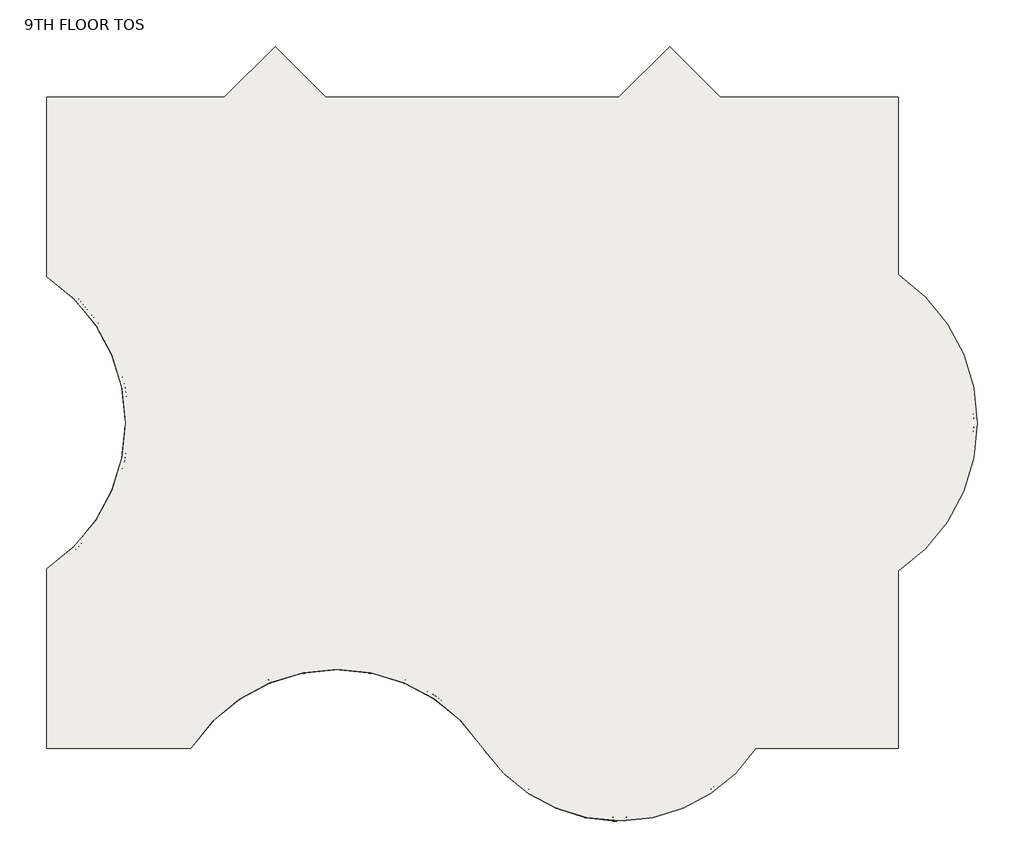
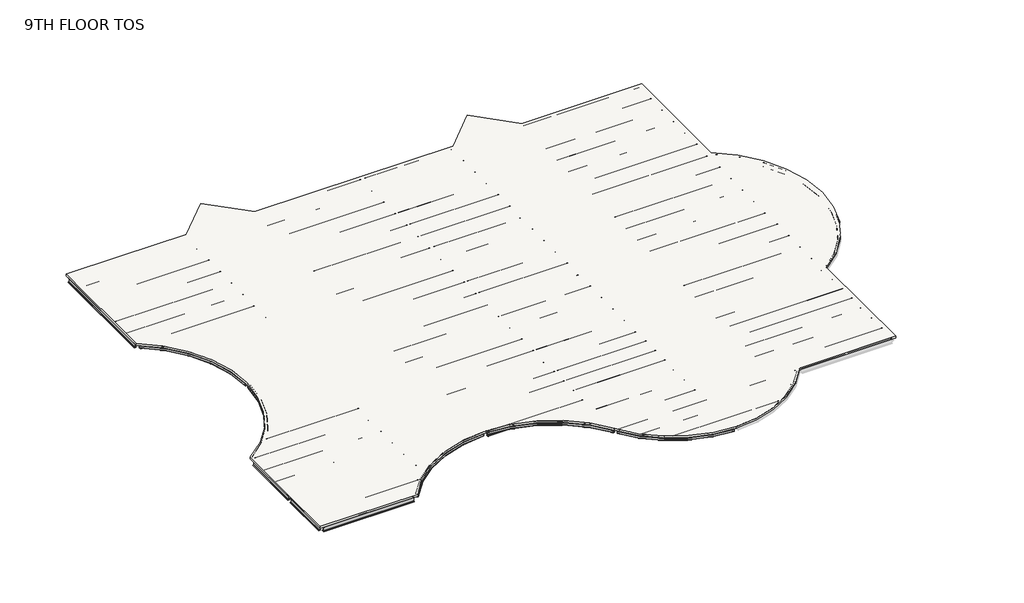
# One storey, part 1 of 2: 86 beams, 1 slab.
"""IFC4 building model written with IfcOpenShell, lengths in millimetres."""

from ifc_helpers import new_model, si_unit, frame, origin, place, context, project, spatial, polyline, circle_curve, transform, mapped, element, save
from ifc_brep_helpers import plane_surface, cylinder_surface, revolved_surface, advanced_brep
from components import m_hss_square_hss203_2x203_2x9_5_914ff4eb, m_hss_square_hss203_2x203_2x9_5_0e3d8e6e, m_hss_square_hss203_2x203_2x9_5_16dc1c03, m_hss_square_hss203_2x203_2x9_5_18346204, m_hss_square_hss203_2x203_2x9_5_d5f1e8c4, ub_universal_beams_ub254x102x28_4e7f3726, ub_universal_beams_ub305x165x40_c4d0385b, ub_universal_beams_ub305x165x40_d3abc31d, ub_universal_beams_ub305x165x40_0c73730f, ub_universal_beams_ub305x165x40_2a963f0c, ub_universal_beams_ub305x165x40_0a5f2f96, ub_universal_beams_ub305x165x40_d1f7c369, ub_universal_beams_ub305x165x40_83d7b7d5, ub_universal_beams_ub305x165x40_729a4ea5, ub_universal_beams_ub305x165x40_71dfa851, ub_universal_beams_ub305x165x40_619b5398, ub_universal_beams_ub305x165x40_c3492db1, ub_universal_beams_ub305x165x40_8f1c350d, ub_universal_beams_ub305x165x40_3afb5f90, ub_universal_beams_ub305x165x40_767d1929, ub_universal_beams_ub305x165x40_5941ca45, ub_universal_beams_ub356x171x51_ef72dcdd, ub_universal_beams_ub356x171x51_7f80702c, ub_universal_beams_ub356x171x51_dfc36663, ub_universal_beams_ub356x171x51_405a853e, ub_universal_beams_ub356x171x51_e47b7055, ub_universal_beams_ub356x171x51_e97f8d2e, ub_universal_beams_ub356x171x51_11d6b780, ub_universal_beams_ub356x171x51_76b2d20b, ub_universal_beams_ub356x171x51_145ecd4b, ub_universal_beams_ub356x171x51_c7dff8d2, ub_universal_beams_ub356x171x51_834c6e34, ub_universal_beams_ub356x171x51_a38b99de, ub_universal_beams_ub356x171x51_d8f4cdde, ub_universal_beams_ub356x171x51_8094f821, ub_universal_beams_ub356x171x51_e661f2e4, ub_universal_beams_ub356x171x51_3ee91673, ub_universal_beams_ub356x171x51_a871b283, ub_universal_beams_ub356x171x51_741bae58

model = new_model("IFC4")

# Units and contexts
model_context = context("Model", 3, world=origin())
ifc_project = project(units=[si_unit("LENGTHUNIT", "METRE", prefix="MILLI")], contexts=[model_context])

# Site, building, storey
site = spatial("IfcSite", under=ifc_project)
building = spatial("IfcBuilding", under=site)
storey = spatial("IfcBuildingStorey", under=building, Name="9TH FLOOR TOS", Elevation=40995.6)

# Beams
placement = place(None, origin())
m_hss_square_hss203_2x203_2x9_5_shape = m_hss_square_hss203_2x203_2x9_5_914ff4eb(model_context)
element("IfcBeam", 1, ObjectType="M_HSS Square : HSS203.2X203.2X9.5", at=placement, inside=storey, context=model_context, shape_type="MappedRepresentation", body=[
    mapped(m_hss_square_hss203_2x203_2x9_5_shape, transform((22710.575, 155.575, 40894.1), x_axis=(-0.552849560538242, 0.8332810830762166, 0.0), y_axis=(-0.8332810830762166, -0.552849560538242, 0.0), z_axis=(0.0, 0.0, 1.0))),
])
m_hss_square_hss203_2x203_2x9_5_2_shape = m_hss_square_hss203_2x203_2x9_5_0e3d8e6e(model_context)
element("IfcBeam", 2, ObjectType="M_HSS Square : HSS203.2X203.2X9.5", at=placement, inside=storey, context=model_context, shape_type="MappedRepresentation", body=[
    mapped(m_hss_square_hss203_2x203_2x9_5_2_shape, transform((155.575, 9299.575, 40894.1), x_axis=(0.8332810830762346, 0.5528495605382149, 0.0), y_axis=(-0.5528495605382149, 0.8332810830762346, 0.0), z_axis=(0.0, 0.0, 1.0))),
])
m_hss_square_hss203_2x203_2x9_5_3_shape = m_hss_square_hss203_2x203_2x9_5_16dc1c03(model_context)
element("IfcBeam", 3, ObjectType="M_HSS Square : HSS203.2X203.2X9.5", at=placement, inside=storey, context=model_context, shape_type="MappedRepresentation", body=[
    mapped(m_hss_square_hss203_2x203_2x9_5_3_shape, transform((155.575, 24539.575, 40894.1), x_axis=(0.8332810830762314, -0.5528495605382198, 0.0), y_axis=(0.5528495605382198, 0.8332810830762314, 0.0), z_axis=(0.0, 0.0, 1.0))),
])
m_hss_square_hss203_2x203_2x9_5_4_shape = m_hss_square_hss203_2x203_2x9_5_18346204(model_context)
element("IfcBeam", 4, ObjectType="M_HSS Square : HSS203.2X203.2X9.5", at=placement, inside=storey, context=model_context, shape_type="MappedRepresentation", body=[
    mapped(m_hss_square_hss203_2x203_2x9_5_4_shape, transform((29734.7266693, -3601.398624, 40894.1), x_axis=(-0.9999968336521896, -0.0025164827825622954, 0.0), y_axis=(0.0025164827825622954, -0.9999968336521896, 0.0), z_axis=(0.0, 0.0, 1.0))),
])
m_hss_square_hss203_2x203_2x9_5_5_shape = m_hss_square_hss203_2x203_2x9_5_d5f1e8c4(model_context)
element("IfcBeam", 5, ObjectType="M_HSS Square : HSS203.2X203.2X9.5", at=placement, inside=storey, context=model_context, shape_type="MappedRepresentation", body=[
    mapped(m_hss_square_hss203_2x203_2x9_5_5_shape, transform((15096.4572854, 4244.5731081, 40894.1), x_axis=(-0.9999997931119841, 0.0006432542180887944, 0.0), y_axis=(-0.0006432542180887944, -0.9999997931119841, 0.0), z_axis=(0.0, 0.0, 1.0))),
])
ub_universal_beams_ub254x102x28_shape = ub_universal_beams_ub254x102x28_4e7f3726(model_context)
element("IfcBeam", 6, ObjectType="UB-Universal Beams : UB254x102x28", at=placement, inside=storey, context=model_context, shape_type="MappedRepresentation", body=[
    mapped(ub_universal_beams_ub254x102x28_shape, transform((9299.575, 3210.915913, 40865.4), x_axis=(0.0, -1.0, 0.0), y_axis=(1.0, 0.0, 0.0), z_axis=(0.0, 0.0, 1.0))),
])
ub_universal_beams_ub305x165x40_shape = ub_universal_beams_ub305x165x40_c4d0385b(model_context)
element("IfcBeam", 7, ObjectType="UB-Universal Beams : UB305x165x40", at=placement, inside=storey, context=model_context, shape_type="MappedRepresentation", body=[
    mapped(ub_universal_beams_ub305x165x40_shape, transform((4727.575, 30635.575, 40843.9), x_axis=(1.0, 0.0, 0.0), y_axis=(0.0, 1.0, 0.0), z_axis=(0.0, 0.0, 1.0))),
])
element("IfcBeam", 8, ObjectType="UB-Universal Beams : UB305x165x40", at=placement, inside=storey, context=model_context, shape_type="MappedRepresentation", body=[
    mapped(ub_universal_beams_ub305x165x40_shape, transform((4727.575, 29111.575, 40843.9), x_axis=(1.0, 0.0, 0.0), y_axis=(0.0, 1.0, 0.0), z_axis=(0.0, 0.0, 1.0))),
])
element("IfcBeam", 9, ObjectType="UB-Universal Beams : UB305x165x40", at=placement, inside=storey, context=model_context, shape_type="MappedRepresentation", body=[
    mapped(ub_universal_beams_ub305x165x40_shape, transform((4727.575, 27587.575, 40843.9), x_axis=(1.0, 0.0, 0.0), y_axis=(0.0, 1.0, 0.0), z_axis=(0.0, 0.0, 1.0))),
])
element("IfcBeam", 10, ObjectType="UB-Universal Beams : UB305x165x40", at=placement, inside=storey, context=model_context, shape_type="MappedRepresentation", body=[
    mapped(ub_universal_beams_ub305x165x40_shape, transform((4727.575, 26063.575, 40843.9), x_axis=(1.0, 0.0, 0.0), y_axis=(0.0, 1.0, 0.0), z_axis=(0.0, 0.0, 1.0))),
])
element("IfcBeam", 11, ObjectType="UB-Universal Beams : UB305x165x40", at=placement, inside=storey, context=model_context, shape_type="MappedRepresentation", body=[
    mapped(ub_universal_beams_ub305x165x40_shape, transform((4727.575, 4727.575, 40843.9), x_axis=(-1.0, 0.0, 0.0), y_axis=(0.0, -1.0, 0.0), z_axis=(0.0, 0.0, 1.0))),
])
element("IfcBeam", 12, ObjectType="UB-Universal Beams : UB305x165x40", at=placement, inside=storey, context=model_context, shape_type="MappedRepresentation", body=[
    mapped(ub_universal_beams_ub305x165x40_shape, transform((4727.575, 6251.575, 40843.9), x_axis=(-1.0, 0.0, 0.0), y_axis=(0.0, -1.0, 0.0), z_axis=(0.0, 0.0, 1.0))),
])
element("IfcBeam", 13, ObjectType="UB-Universal Beams : UB305x165x40", at=placement, inside=storey, context=model_context, shape_type="MappedRepresentation", body=[
    mapped(ub_universal_beams_ub305x165x40_shape, transform((4727.575, 7775.575, 40843.9), x_axis=(-1.0, 0.0, 0.0), y_axis=(0.0, -1.0, 0.0), z_axis=(0.0, 0.0, 1.0))),
])
ub_universal_beams_ub305x165x40_2_shape = ub_universal_beams_ub305x165x40_d3abc31d(model_context)
element("IfcBeam", 14, ObjectType="UB-Universal Beams : UB305x165x40", at=placement, inside=storey, context=model_context, shape_type="MappedRepresentation", body=[
    mapped(ub_universal_beams_ub305x165x40_2_shape, transform((11885.575, 28938.325, 40843.9), x_axis=(1.0, 0.0, 0.0), y_axis=(0.0, 1.0, 0.0), z_axis=(0.0, 0.0, 1.0))),
])
element("IfcBeam", 15, ObjectType="UB-Universal Beams : UB305x165x40", at=placement, inside=storey, context=model_context, shape_type="MappedRepresentation", body=[
    mapped(ub_universal_beams_ub305x165x40_2_shape, transform((11885.575, 27472.075, 40843.9), x_axis=(1.0, 0.0, 0.0), y_axis=(0.0, 1.0, 0.0), z_axis=(0.0, 0.0, 1.0))),
])
element("IfcBeam", 16, ObjectType="UB-Universal Beams : UB305x165x40", at=placement, inside=storey, context=model_context, shape_type="MappedRepresentation", body=[
    mapped(ub_universal_beams_ub305x165x40_2_shape, transform((11885.575, 26005.825, 40843.9), x_axis=(1.0, 0.0, 0.0), y_axis=(0.0, 1.0, 0.0), z_axis=(0.0, 0.0, 1.0))),
])
element("IfcBeam", 17, ObjectType="UB-Universal Beams : UB305x165x40", at=placement, inside=storey, context=model_context, shape_type="MappedRepresentation", body=[
    mapped(ub_universal_beams_ub305x165x40_2_shape, transform((11885.575, 23015.575, 40843.9), x_axis=(1.0, 0.0, 0.0), y_axis=(0.0, 1.0, 0.0), z_axis=(0.0, 0.0, 1.0))),
])
element("IfcBeam", 18, ObjectType="UB-Universal Beams : UB305x165x40", at=placement, inside=storey, context=model_context, shape_type="MappedRepresentation", body=[
    mapped(ub_universal_beams_ub305x165x40_2_shape, transform((11885.575, 21491.575, 40843.9), x_axis=(1.0, 0.0, 0.0), y_axis=(0.0, 1.0, 0.0), z_axis=(0.0, 0.0, 1.0))),
])
element("IfcBeam", 19, ObjectType="UB-Universal Beams : UB305x165x40", at=placement, inside=storey, context=model_context, shape_type="MappedRepresentation", body=[
    mapped(ub_universal_beams_ub305x165x40_2_shape, transform((11885.575, 19967.575, 40843.9), x_axis=(1.0, 0.0, 0.0), y_axis=(0.0, 1.0, 0.0), z_axis=(0.0, 0.0, 1.0))),
])
element("IfcBeam", 20, ObjectType="UB-Universal Beams : UB305x165x40", at=placement, inside=storey, context=model_context, shape_type="MappedRepresentation", body=[
    mapped(ub_universal_beams_ub305x165x40_2_shape, transform((11885.575, 18443.575, 40843.9), x_axis=(1.0, 0.0, 0.0), y_axis=(0.0, 1.0, 0.0), z_axis=(0.0, 0.0, 1.0))),
])
element("IfcBeam", 21, ObjectType="UB-Universal Beams : UB305x165x40", at=placement, inside=storey, context=model_context, shape_type="MappedRepresentation", body=[
    mapped(ub_universal_beams_ub305x165x40_2_shape, transform((11885.575, 15395.575, 40843.9), x_axis=(1.0, 0.0, 0.0), y_axis=(0.0, 1.0, 0.0), z_axis=(0.0, 0.0, 1.0))),
])
element("IfcBeam", 22, ObjectType="UB-Universal Beams : UB305x165x40", at=placement, inside=storey, context=model_context, shape_type="MappedRepresentation", body=[
    mapped(ub_universal_beams_ub305x165x40_2_shape, transform((11885.575, 13871.575, 40843.9), x_axis=(1.0, 0.0, 0.0), y_axis=(0.0, 1.0, 0.0), z_axis=(0.0, 0.0, 1.0))),
])
element("IfcBeam", 23, ObjectType="UB-Universal Beams : UB305x165x40", at=placement, inside=storey, context=model_context, shape_type="MappedRepresentation", body=[
    mapped(ub_universal_beams_ub305x165x40_2_shape, transform((11885.575, 12347.575, 40843.9), x_axis=(1.0, 0.0, 0.0), y_axis=(0.0, 1.0, 0.0), z_axis=(0.0, 0.0, 1.0))),
])
element("IfcBeam", 24, ObjectType="UB-Universal Beams : UB305x165x40", at=placement, inside=storey, context=model_context, shape_type="MappedRepresentation", body=[
    mapped(ub_universal_beams_ub305x165x40_2_shape, transform((11885.575, 10823.575, 40843.9), x_axis=(1.0, 0.0, 0.0), y_axis=(0.0, 1.0, 0.0), z_axis=(0.0, 0.0, 1.0))),
])
element("IfcBeam", 25, ObjectType="UB-Universal Beams : UB305x165x40", at=placement, inside=storey, context=model_context, shape_type="MappedRepresentation", body=[
    mapped(ub_universal_beams_ub305x165x40_2_shape, transform((11885.575, 5026.1840956, 40843.9), x_axis=(-1.0, 0.0, 0.0), y_axis=(0.0, -1.0, 0.0), z_axis=(0.0, 0.0, 1.0))),
])
element("IfcBeam", 26, ObjectType="UB-Universal Beams : UB305x165x40", at=placement, inside=storey, context=model_context, shape_type="MappedRepresentation", body=[
    mapped(ub_universal_beams_ub305x165x40_2_shape, transform((11885.575, 6450.6477304, 40843.9), x_axis=(-1.0, 0.0, 0.0), y_axis=(0.0, -1.0, 0.0), z_axis=(0.0, 0.0, 1.0))),
])
element("IfcBeam", 27, ObjectType="UB-Universal Beams : UB305x165x40", at=placement, inside=storey, context=model_context, shape_type="MappedRepresentation", body=[
    mapped(ub_universal_beams_ub305x165x40_2_shape, transform((11885.575, 7875.1113652, 40843.9), x_axis=(-1.0, 0.0, 0.0), y_axis=(0.0, -1.0, 0.0), z_axis=(0.0, 0.0, 1.0))),
])
ub_universal_beams_ub305x165x40_3_shape = ub_universal_beams_ub305x165x40_0c73730f(model_context)
element("IfcBeam", 28, ObjectType="UB-Universal Beams : UB305x165x40", at=placement, inside=storey, context=model_context, shape_type="MappedRepresentation", body=[
    mapped(ub_universal_beams_ub305x165x40_3_shape, transform((18591.075, 5492.5943214, 40843.9), x_axis=(-1.0, 0.0, 0.0), y_axis=(0.0, -1.0, 0.0), z_axis=(0.0, 0.0, 1.0))),
])
element("IfcBeam", 29, ObjectType="UB-Universal Beams : UB305x165x40", at=placement, inside=storey, context=model_context, shape_type="MappedRepresentation", body=[
    mapped(ub_universal_beams_ub305x165x40_3_shape, transform((18591.075, 6761.5878809, 40843.9), x_axis=(-1.0, 0.0, 0.0), y_axis=(0.0, -1.0, 0.0), z_axis=(0.0, 0.0, 1.0))),
])
element("IfcBeam", 30, ObjectType="UB-Universal Beams : UB305x165x40", at=placement, inside=storey, context=model_context, shape_type="MappedRepresentation", body=[
    mapped(ub_universal_beams_ub305x165x40_3_shape, transform((18591.075, 8030.5814405, 40843.9), x_axis=(-1.0, 0.0, 0.0), y_axis=(0.0, -1.0, 0.0), z_axis=(0.0, 0.0, 1.0))),
])
element("IfcBeam", 31, ObjectType="UB-Universal Beams : UB305x165x40", at=placement, inside=storey, context=model_context, shape_type="MappedRepresentation", body=[
    mapped(ub_universal_beams_ub305x165x40_3_shape, transform((18591.075, 15395.575, 40843.9), x_axis=(1.0, 0.0, 0.0), y_axis=(0.0, 1.0, 0.0), z_axis=(0.0, 0.0, 1.0))),
])
element("IfcBeam", 32, ObjectType="UB-Universal Beams : UB305x165x40", at=placement, inside=storey, context=model_context, shape_type="MappedRepresentation", body=[
    mapped(ub_universal_beams_ub305x165x40_3_shape, transform((18591.075, 13871.575, 40843.9), x_axis=(1.0, 0.0, 0.0), y_axis=(0.0, 1.0, 0.0), z_axis=(0.0, 0.0, 1.0))),
])
element("IfcBeam", 33, ObjectType="UB-Universal Beams : UB305x165x40", at=placement, inside=storey, context=model_context, shape_type="MappedRepresentation", body=[
    mapped(ub_universal_beams_ub305x165x40_3_shape, transform((18591.075, 12347.575, 40843.9), x_axis=(1.0, 0.0, 0.0), y_axis=(0.0, 1.0, 0.0), z_axis=(0.0, 0.0, 1.0))),
])
element("IfcBeam", 34, ObjectType="UB-Universal Beams : UB305x165x40", at=placement, inside=storey, context=model_context, shape_type="MappedRepresentation", body=[
    mapped(ub_universal_beams_ub305x165x40_3_shape, transform((18591.075, 10823.575, 40843.9), x_axis=(1.0, 0.0, 0.0), y_axis=(0.0, 1.0, 0.0), z_axis=(0.0, 0.0, 1.0))),
])
ub_universal_beams_ub305x165x40_4_shape = ub_universal_beams_ub305x165x40_2a963f0c(model_context)
element("IfcBeam", 35, ObjectType="UB-Universal Beams : UB305x165x40", at=placement, inside=storey, context=model_context, shape_type="MappedRepresentation", body=[
    mapped(ub_universal_beams_ub305x165x40_4_shape, transform((26211.075, 15395.575, 40843.9), x_axis=(1.0, 0.0, 0.0), y_axis=(0.0, 1.0, 0.0), z_axis=(0.0, 0.0, 1.0))),
])
element("IfcBeam", 36, ObjectType="UB-Universal Beams : UB305x165x40", at=placement, inside=storey, context=model_context, shape_type="MappedRepresentation", body=[
    mapped(ub_universal_beams_ub305x165x40_4_shape, transform((26211.075, 13871.575, 40843.9), x_axis=(1.0, 0.0, 0.0), y_axis=(0.0, 1.0, 0.0), z_axis=(0.0, 0.0, 1.0))),
])
element("IfcBeam", 37, ObjectType="UB-Universal Beams : UB305x165x40", at=placement, inside=storey, context=model_context, shape_type="MappedRepresentation", body=[
    mapped(ub_universal_beams_ub305x165x40_4_shape, transform((26211.075, 12347.575, 40843.9), x_axis=(1.0, 0.0, 0.0), y_axis=(0.0, 1.0, 0.0), z_axis=(0.0, 0.0, 1.0))),
])
element("IfcBeam", 38, ObjectType="UB-Universal Beams : UB305x165x40", at=placement, inside=storey, context=model_context, shape_type="MappedRepresentation", body=[
    mapped(ub_universal_beams_ub305x165x40_4_shape, transform((26211.075, 10823.575, 40843.9), x_axis=(1.0, 0.0, 0.0), y_axis=(0.0, 1.0, 0.0), z_axis=(0.0, 0.0, 1.0))),
])
element("IfcBeam", 39, ObjectType="UB-Universal Beams : UB305x165x40", at=placement, inside=storey, context=model_context, shape_type="MappedRepresentation", body=[
    mapped(ub_universal_beams_ub305x165x40_4_shape, transform((26211.075, 5508.325, 40843.9), x_axis=(-1.0, 0.0, 0.0), y_axis=(0.0, -1.0, 0.0), z_axis=(0.0, 0.0, 1.0))),
])
element("IfcBeam", 40, ObjectType="UB-Universal Beams : UB305x165x40", at=placement, inside=storey, context=model_context, shape_type="MappedRepresentation", body=[
    mapped(ub_universal_beams_ub305x165x40_4_shape, transform((26211.075, 6772.075, 40843.9), x_axis=(-1.0, 0.0, 0.0), y_axis=(0.0, -1.0, 0.0), z_axis=(0.0, 0.0, 1.0))),
])
element("IfcBeam", 41, ObjectType="UB-Universal Beams : UB305x165x40", at=placement, inside=storey, context=model_context, shape_type="MappedRepresentation", body=[
    mapped(ub_universal_beams_ub305x165x40_4_shape, transform((26211.075, 8035.825, 40843.9), x_axis=(-1.0, 0.0, 0.0), y_axis=(0.0, -1.0, 0.0), z_axis=(0.0, 0.0, 1.0))),
])
element("IfcBeam", 42, ObjectType="UB-Universal Beams : UB305x165x40", at=placement, inside=storey, context=model_context, shape_type="MappedRepresentation", body=[
    mapped(ub_universal_beams_ub305x165x40_4_shape, transform((26211.075, 1518.575, 40843.9), x_axis=(-1.0, 0.0, 0.0), y_axis=(0.0, -1.0, 0.0), z_axis=(0.0, 0.0, 1.0))),
])
element("IfcBeam", 43, ObjectType="UB-Universal Beams : UB305x165x40", at=placement, inside=storey, context=model_context, shape_type="MappedRepresentation", body=[
    mapped(ub_universal_beams_ub305x165x40_4_shape, transform((26211.075, 2881.575, 40843.9), x_axis=(-1.0, 0.0, 0.0), y_axis=(0.0, -1.0, 0.0), z_axis=(0.0, 0.0, 1.0))),
])
ub_universal_beams_ub305x165x40_5_shape = ub_universal_beams_ub305x165x40_0a5f2f96(model_context)
element("IfcBeam", 44, ObjectType="UB-Universal Beams : UB305x165x40", at=placement, inside=storey, context=model_context, shape_type="MappedRepresentation", body=[
    mapped(ub_universal_beams_ub305x165x40_5_shape, transform((29713.575, -2349.0918253, 40843.9), x_axis=(-1.0, 0.0, 0.0), y_axis=(0.0, -1.0, 0.0), z_axis=(0.0, 0.0, 1.0))),
])
ub_universal_beams_ub305x165x40_6_shape = ub_universal_beams_ub305x165x40_d1f7c369(model_context)
element("IfcBeam", 45, ObjectType="UB-Universal Beams : UB305x165x40", at=placement, inside=storey, context=model_context, shape_type="MappedRepresentation", body=[
    mapped(ub_universal_beams_ub305x165x40_6_shape, transform((29713.575, -1096.7584126, 40843.9), x_axis=(-1.0, 0.0, 0.0), y_axis=(0.0, -1.0, 0.0), z_axis=(0.0, 0.0, 1.0))),
])
ub_universal_beams_ub305x165x40_7_shape = ub_universal_beams_ub305x165x40_83d7b7d5(model_context)
element("IfcBeam", 46, ObjectType="UB-Universal Beams : UB305x165x40", at=placement, inside=storey, context=model_context, shape_type="MappedRepresentation", body=[
    mapped(ub_universal_beams_ub305x165x40_7_shape, transform((22157.3041106, 1518.575, 40843.9), x_axis=(-1.0, 0.0, 0.0), y_axis=(0.0, -1.0, 0.0), z_axis=(0.0, 0.0, 1.0))),
])
ub_universal_beams_ub305x165x40_8_shape = ub_universal_beams_ub305x165x40_729a4ea5(model_context)
element("IfcBeam", 47, ObjectType="UB-Universal Beams : UB305x165x40", at=placement, inside=storey, context=model_context, shape_type="MappedRepresentation", body=[
    mapped(ub_universal_beams_ub305x165x40_8_shape, transform((21302.1545844, 2881.575, 40843.9), x_axis=(-1.0, 0.0, 0.0), y_axis=(0.0, -1.0, 0.0), z_axis=(0.0, 0.0, 1.0))),
])
ub_universal_beams_ub305x165x40_9_shape = ub_universal_beams_ub305x165x40_71dfa851(model_context)
element("IfcBeam", 48, ObjectType="UB-Universal Beams : UB305x165x40", at=placement, inside=storey, context=model_context, shape_type="MappedRepresentation", body=[
    mapped(ub_universal_beams_ub305x165x40_9_shape, transform((10511.0323166, 3601.7204608, 40843.9), x_axis=(-1.0, 0.0, 0.0), y_axis=(0.0, -1.0, 0.0), z_axis=(0.0, 0.0, 1.0))),
])
ub_universal_beams_ub305x165x40_10_shape = ub_universal_beams_ub305x165x40_619b5398(model_context)
element("IfcBeam", 49, ObjectType="UB-Universal Beams : UB305x165x40", at=placement, inside=storey, context=model_context, shape_type="MappedRepresentation", body=[
    mapped(ub_universal_beams_ub305x165x40_10_shape, transform((4447.6838282, 1679.575, 40843.9), x_axis=(-1.0, 0.0, 0.0), y_axis=(0.0, -1.0, 0.0), z_axis=(0.0, 0.0, 1.0))),
])
ub_universal_beams_ub305x165x40_11_shape = ub_universal_beams_ub305x165x40_c3492db1(model_context)
element("IfcBeam", 50, ObjectType="UB-Universal Beams : UB305x165x40", at=placement, inside=storey, context=model_context, shape_type="MappedRepresentation", body=[
    mapped(ub_universal_beams_ub305x165x40_11_shape, transform((4727.575, 3203.575, 40843.9), x_axis=(-1.0, 0.0, 0.0), y_axis=(0.0, -1.0, 0.0), z_axis=(0.0, 0.0, 1.0))),
])
ub_universal_beams_ub305x165x40_12_shape = ub_universal_beams_ub305x165x40_8f1c350d(model_context)
element("IfcBeam", 51, ObjectType="UB-Universal Beams : UB305x165x40", at=placement, inside=storey, context=model_context, shape_type="MappedRepresentation", body=[
    mapped(ub_universal_beams_ub305x165x40_12_shape, transform((6708.1318611, 15395.575, 40843.9), x_axis=(1.0, 0.0, 0.0), y_axis=(0.0, 1.0, 0.0), z_axis=(0.0, 0.0, 1.0))),
])
element("IfcBeam", 52, ObjectType="UB-Universal Beams : UB305x165x40", at=placement, inside=storey, context=model_context, shape_type="MappedRepresentation", body=[
    mapped(ub_universal_beams_ub305x165x40_12_shape, transform((6708.1318611, 18443.575, 40843.9), x_axis=(1.0, 0.0, 0.0), y_axis=(0.0, 1.0, 0.0), z_axis=(0.0, 0.0, 1.0))),
])
ub_universal_beams_ub305x165x40_13_shape = ub_universal_beams_ub305x165x40_3afb5f90(model_context)
element("IfcBeam", 53, ObjectType="UB-Universal Beams : UB305x165x40", at=placement, inside=storey, context=model_context, shape_type="MappedRepresentation", body=[
    mapped(ub_universal_beams_ub305x165x40_13_shape, transform((6510.6153272, 13871.575, 40843.9), x_axis=(1.0, 0.0, 0.0), y_axis=(0.0, 1.0, 0.0), z_axis=(0.0, 0.0, 1.0))),
])
element("IfcBeam", 54, ObjectType="UB-Universal Beams : UB305x165x40", at=placement, inside=storey, context=model_context, shape_type="MappedRepresentation", body=[
    mapped(ub_universal_beams_ub305x165x40_13_shape, transform((6510.6153272, 19967.575, 40843.9), x_axis=(1.0, 0.0, 0.0), y_axis=(0.0, 1.0, 0.0), z_axis=(0.0, 0.0, 1.0))),
])
ub_universal_beams_ub305x165x40_14_shape = ub_universal_beams_ub305x165x40_767d1929(model_context)
element("IfcBeam", 55, ObjectType="UB-Universal Beams : UB305x165x40", at=placement, inside=storey, context=model_context, shape_type="MappedRepresentation", body=[
    mapped(ub_universal_beams_ub305x165x40_14_shape, transform((6159.5874928, 12347.575, 40843.9), x_axis=(1.0, 0.0, 0.0), y_axis=(0.0, 1.0, 0.0), z_axis=(0.0, 0.0, 1.0))),
])
element("IfcBeam", 56, ObjectType="UB-Universal Beams : UB305x165x40", at=placement, inside=storey, context=model_context, shape_type="MappedRepresentation", body=[
    mapped(ub_universal_beams_ub305x165x40_14_shape, transform((6159.5874928, 21491.575, 40843.9), x_axis=(1.0, 0.0, 0.0), y_axis=(0.0, 1.0, 0.0), z_axis=(0.0, 0.0, 1.0))),
])
ub_universal_beams_ub305x165x40_15_shape = ub_universal_beams_ub305x165x40_5941ca45(model_context)
element("IfcBeam", 57, ObjectType="UB-Universal Beams : UB305x165x40", at=placement, inside=storey, context=model_context, shape_type="MappedRepresentation", body=[
    mapped(ub_universal_beams_ub305x165x40_15_shape, transform((5607.9405309, 10823.575, 40843.9), x_axis=(1.0, 0.0, 0.0), y_axis=(0.0, 1.0, 0.0), z_axis=(0.0, 0.0, 1.0))),
])
element("IfcBeam", 58, ObjectType="UB-Universal Beams : UB305x165x40", at=placement, inside=storey, context=model_context, shape_type="MappedRepresentation", body=[
    mapped(ub_universal_beams_ub305x165x40_15_shape, transform((5607.9405309, 23015.575, 40843.9), x_axis=(1.0, 0.0, 0.0), y_axis=(0.0, 1.0, 0.0), z_axis=(0.0, 0.0, 1.0))),
])
ub_universal_beams_ub356x171x51_shape = ub_universal_beams_ub356x171x51_ef72dcdd(model_context)
element("IfcBeam", 59, ObjectType="UB-Universal Beams : UB356x171x51", at=placement, inside=storey, context=model_context, shape_type="MappedRepresentation", body=[
    mapped(ub_universal_beams_ub356x171x51_shape, transform((9299.575, 6772.075, 40818.1), x_axis=(0.0, -1.0, 0.0), y_axis=(1.0, 0.0, 0.0), z_axis=(0.0, 0.0, 1.0))),
])
element("IfcBeam", 60, ObjectType="UB-Universal Beams : UB356x171x51", at=placement, inside=storey, context=model_context, shape_type="MappedRepresentation", body=[
    mapped(ub_universal_beams_ub356x171x51_shape, transform((29711.575, 6772.075, 40818.1), x_axis=(0.0, 1.0, 0.0), y_axis=(-1.0, 0.0, 0.0), z_axis=(0.0, 0.0, 1.0))),
])
element("IfcBeam", 61, ObjectType="UB-Universal Beams : UB356x171x51", at=placement, inside=storey, context=model_context, shape_type="MappedRepresentation", body=[
    mapped(ub_universal_beams_ub356x171x51_shape, transform((22710.575, 6772.075, 40818.1), x_axis=(0.0, -1.0, 0.0), y_axis=(1.0, 0.0, 0.0), z_axis=(0.0, 0.0, 1.0))),
])
ub_universal_beams_ub356x171x51_2_shape = ub_universal_beams_ub356x171x51_7f80702c(model_context)
element("IfcBeam", 62, ObjectType="UB-Universal Beams : UB356x171x51", at=placement, inside=storey, context=model_context, shape_type="MappedRepresentation", body=[
    mapped(ub_universal_beams_ub356x171x51_2_shape, transform((3813.075, 155.575, 40818.1), x_axis=(-1.0, 0.0, 0.0), y_axis=(0.0, -1.0, 0.0), z_axis=(0.0, 0.0, 1.0))),
])
ub_universal_beams_ub356x171x51_3_shape = ub_universal_beams_ub356x171x51_dfc36663(model_context)
element("IfcBeam", 63, ObjectType="UB-Universal Beams : UB356x171x51", at=placement, inside=storey, context=model_context, shape_type="MappedRepresentation", body=[
    mapped(ub_universal_beams_ub356x171x51_3_shape, transform((155.575, 2200.075, 40818.1), x_axis=(0.0, 1.0, 0.0), y_axis=(-1.0, 0.0, 0.0), z_axis=(0.0, 0.0, 1.0))),
])
ub_universal_beams_ub356x171x51_4_shape = ub_universal_beams_ub356x171x51_405a853e(model_context)
element("IfcBeam", 64, ObjectType="UB-Universal Beams : UB356x171x51", at=placement, inside=storey, context=model_context, shape_type="MappedRepresentation", body=[
    mapped(ub_universal_beams_ub356x171x51_4_shape, transform((155.575, 6772.075, 40818.1), x_axis=(0.0, 1.0, 0.0), y_axis=(-1.0, 0.0, 0.0), z_axis=(0.0, 0.0, 1.0))),
])
ub_universal_beams_ub356x171x51_5_shape = ub_universal_beams_ub356x171x51_e47b7055(model_context)
element("IfcBeam", 65, ObjectType="UB-Universal Beams : UB356x171x51", at=placement, inside=storey, context=model_context, shape_type="MappedRepresentation", body=[
    mapped(ub_universal_beams_ub356x171x51_5_shape, transform((155.575, 29111.575, 40818.1), x_axis=(0.0, 1.0, 0.0), y_axis=(-1.0, 0.0, 0.0), z_axis=(0.0, 0.0, 1.0))),
])
ub_universal_beams_ub356x171x51_6_shape = ub_universal_beams_ub356x171x51_e97f8d2e(model_context)
element("IfcBeam", 66, ObjectType="UB-Universal Beams : UB356x171x51", at=placement, inside=storey, context=model_context, shape_type="MappedRepresentation", body=[
    mapped(ub_universal_beams_ub356x171x51_6_shape, transform((4727.575, 24539.575, 40818.1), x_axis=(1.0, 0.0, 0.0), y_axis=(0.0, 1.0, 0.0), z_axis=(0.0, 0.0, 1.0))),
])
ub_universal_beams_ub356x171x51_7_shape = ub_universal_beams_ub356x171x51_11d6b780(model_context)
element("IfcBeam", 67, ObjectType="UB-Universal Beams : UB356x171x51", at=placement, inside=storey, context=model_context, shape_type="MappedRepresentation", body=[
    mapped(ub_universal_beams_ub356x171x51_7_shape, transform((11885.575, 24539.575, 40818.1), x_axis=(1.0, 0.0, 0.0), y_axis=(0.0, 1.0, 0.0), z_axis=(0.0, 0.0, 1.0))),
])
element("IfcBeam", 68, ObjectType="UB-Universal Beams : UB356x171x51", at=placement, inside=storey, context=model_context, shape_type="MappedRepresentation", body=[
    mapped(ub_universal_beams_ub356x171x51_7_shape, transform((11885.575, 9299.575, 40818.1), x_axis=(-1.0, 0.0, 0.0), y_axis=(0.0, -1.0, 0.0), z_axis=(0.0, 0.0, 1.0))),
])
element("IfcBeam", 69, ObjectType="UB-Universal Beams : UB356x171x51", at=placement, inside=storey, context=model_context, shape_type="MappedRepresentation", body=[
    mapped(ub_universal_beams_ub356x171x51_7_shape, transform((11885.575, 16919.575, 40818.1), x_axis=(1.0, 0.0, 0.0), y_axis=(0.0, 1.0, 0.0), z_axis=(0.0, 0.0, 1.0))),
])
ub_universal_beams_ub356x171x51_8_shape = ub_universal_beams_ub356x171x51_76b2d20b(model_context)
element("IfcBeam", 70, ObjectType="UB-Universal Beams : UB356x171x51", at=placement, inside=storey, context=model_context, shape_type="MappedRepresentation", body=[
    mapped(ub_universal_beams_ub356x171x51_8_shape, transform((18591.075, 9299.575, 40818.1), x_axis=(-1.0, 0.0, 0.0), y_axis=(0.0, -1.0, 0.0), z_axis=(0.0, 0.0, 1.0))),
])
ub_universal_beams_ub356x171x51_9_shape = ub_universal_beams_ub356x171x51_145ecd4b(model_context)
element("IfcBeam", 71, ObjectType="UB-Universal Beams : UB356x171x51", at=placement, inside=storey, context=model_context, shape_type="MappedRepresentation", body=[
    mapped(ub_universal_beams_ub356x171x51_9_shape, transform((26211.075, 9299.575, 40818.1), x_axis=(-1.0, 0.0, 0.0), y_axis=(0.0, -1.0, 0.0), z_axis=(0.0, 0.0, 1.0))),
])
element("IfcBeam", 72, ObjectType="UB-Universal Beams : UB356x171x51", at=placement, inside=storey, context=model_context, shape_type="MappedRepresentation", body=[
    mapped(ub_universal_beams_ub356x171x51_9_shape, transform((26211.075, 4244.575, 40818.1), x_axis=(-1.0, 0.0, 0.0), y_axis=(0.0, -1.0, 0.0), z_axis=(0.0, 0.0, 1.0))),
])
ub_universal_beams_ub356x171x51_10_shape = ub_universal_beams_ub356x171x51_c7dff8d2(model_context)
element("IfcBeam", 73, ObjectType="UB-Universal Beams : UB356x171x51", at=placement, inside=storey, context=model_context, shape_type="MappedRepresentation", body=[
    mapped(ub_universal_beams_ub356x171x51_10_shape, transform((4727.575, 9299.575, 40818.1), x_axis=(-1.0, 0.0, 0.0), y_axis=(0.0, -1.0, 0.0), z_axis=(0.0, 0.0, 1.0))),
])
ub_universal_beams_ub356x171x51_11_shape = ub_universal_beams_ub356x171x51_834c6e34(model_context)
element("IfcBeam", 74, ObjectType="UB-Universal Beams : UB356x171x51", at=placement, inside=storey, context=model_context, shape_type="MappedRepresentation", body=[
    mapped(ub_universal_beams_ub356x171x51_11_shape, transform((14471.575, 6761.5878809, 40818.1), x_axis=(0.0, -1.0, 0.0), y_axis=(1.0, 0.0, 0.0), z_axis=(0.0, 0.0, 1.0))),
])
ub_universal_beams_ub356x171x51_12_shape = ub_universal_beams_ub356x171x51_a38b99de(model_context)
element("IfcBeam", 75, ObjectType="UB-Universal Beams : UB356x171x51", at=placement, inside=storey, context=model_context, shape_type="MappedRepresentation", body=[
    mapped(ub_universal_beams_ub356x171x51_12_shape, transform((9299.575, 13109.575, 40818.1), x_axis=(0.0, 1.0, 0.0), y_axis=(-1.0, 0.0, 0.0), z_axis=(0.0, 0.0, 1.0))),
])
element("IfcBeam", 76, ObjectType="UB-Universal Beams : UB356x171x51", at=placement, inside=storey, context=model_context, shape_type="MappedRepresentation", body=[
    mapped(ub_universal_beams_ub356x171x51_12_shape, transform((9299.575, 20729.575, 40818.1), x_axis=(0.0, 1.0, 0.0), y_axis=(-1.0, 0.0, 0.0), z_axis=(0.0, 0.0, 1.0))),
])
element("IfcBeam", 77, ObjectType="UB-Universal Beams : UB356x171x51", at=placement, inside=storey, context=model_context, shape_type="MappedRepresentation", body=[
    mapped(ub_universal_beams_ub356x171x51_12_shape, transform((14471.575, 20729.575, 40818.1), x_axis=(0.0, -1.0, 0.0), y_axis=(1.0, 0.0, 0.0), z_axis=(0.0, 0.0, 1.0))),
])
element("IfcBeam", 78, ObjectType="UB-Universal Beams : UB356x171x51", at=placement, inside=storey, context=model_context, shape_type="MappedRepresentation", body=[
    mapped(ub_universal_beams_ub356x171x51_12_shape, transform((14471.575, 13109.575, 40818.1), x_axis=(0.0, -1.0, 0.0), y_axis=(1.0, 0.0, 0.0), z_axis=(0.0, 0.0, 1.0))),
])
element("IfcBeam", 79, ObjectType="UB-Universal Beams : UB356x171x51", at=placement, inside=storey, context=model_context, shape_type="MappedRepresentation", body=[
    mapped(ub_universal_beams_ub356x171x51_12_shape, transform((22710.575, 13109.575, 40818.1), x_axis=(0.0, -1.0, 0.0), y_axis=(1.0, 0.0, 0.0), z_axis=(0.0, 0.0, 1.0))),
])
element("IfcBeam", 80, ObjectType="UB-Universal Beams : UB356x171x51", at=placement, inside=storey, context=model_context, shape_type="MappedRepresentation", body=[
    mapped(ub_universal_beams_ub356x171x51_12_shape, transform((29711.575, 13109.575, 40818.1), x_axis=(0.0, 1.0, 0.0), y_axis=(-1.0, 0.0, 0.0), z_axis=(0.0, 0.0, 1.0))),
])
ub_universal_beams_ub356x171x51_13_shape = ub_universal_beams_ub356x171x51_d8f4cdde(model_context)
element("IfcBeam", 81, ObjectType="UB-Universal Beams : UB356x171x51", at=placement, inside=storey, context=model_context, shape_type="MappedRepresentation", body=[
    mapped(ub_universal_beams_ub356x171x51_13_shape, transform((9299.575, 29111.575, 40818.1), x_axis=(0.0, 1.0, 0.0), y_axis=(-1.0, 0.0, 0.0), z_axis=(0.0, 0.0, 1.0))),
])
ub_universal_beams_ub356x171x51_14_shape = ub_universal_beams_ub356x171x51_8094f821(model_context)
element("IfcBeam", 82, ObjectType="UB-Universal Beams : UB356x171x51", at=placement, inside=storey, context=model_context, shape_type="MappedRepresentation", body=[
    mapped(ub_universal_beams_ub356x171x51_14_shape, transform((6772.075, 16919.575, 40818.1), x_axis=(1.0, 0.0, 0.0), y_axis=(0.0, 1.0, 0.0), z_axis=(0.0, 0.0, 1.0))),
])
ub_universal_beams_ub356x171x51_15_shape = ub_universal_beams_ub356x171x51_e661f2e4(model_context)
element("IfcBeam", 83, ObjectType="UB-Universal Beams : UB356x171x51", at=placement, inside=storey, context=model_context, shape_type="MappedRepresentation", body=[
    mapped(ub_universal_beams_ub356x171x51_15_shape, transform((29713.575, 155.575, 40818.1), x_axis=(-1.0, 0.0, 0.0), y_axis=(0.0, -1.0, 0.0), z_axis=(0.0, 0.0, 1.0))),
])
ub_universal_beams_ub356x171x51_16_shape = ub_universal_beams_ub356x171x51_3ee91673(model_context)
element("IfcBeam", 84, ObjectType="UB-Universal Beams : UB356x171x51", at=placement, inside=storey, context=model_context, shape_type="MappedRepresentation", body=[
    mapped(ub_universal_beams_ub356x171x51_16_shape, transform((18900.575, 4244.575, 40818.1), x_axis=(-1.0, 0.0, 0.0), y_axis=(0.0, -1.0, 0.0), z_axis=(0.0, 0.0, 1.0))),
])
ub_universal_beams_ub356x171x51_17_shape = ub_universal_beams_ub356x171x51_a871b283(model_context)
element("IfcBeam", 85, ObjectType="UB-Universal Beams : UB356x171x51", at=placement, inside=storey, context=model_context, shape_type="MappedRepresentation", body=[
    mapped(ub_universal_beams_ub356x171x51_17_shape, transform((22710.575, 2200.075, 40818.1), x_axis=(0.0, -1.0, 0.0), y_axis=(1.0, 0.0, 0.0), z_axis=(0.0, 0.0, 1.0))),
])
ub_universal_beams_ub356x171x51_18_shape = ub_universal_beams_ub356x171x51_741bae58(model_context)
element("IfcBeam", 86, ObjectType="UB-Universal Beams : UB356x171x51", at=placement, inside=storey, context=model_context, shape_type="MappedRepresentation", body=[
    mapped(ub_universal_beams_ub356x171x51_18_shape, transform((29711.575, 2200.075, 40818.1), x_axis=(0.0, -1.0, 0.0), y_axis=(1.0, 0.0, 0.0), z_axis=(0.0, 0.0, 1.0))),
])

# Slab
element("IfcSlab", 87, ObjectType="152mm Concrete With 50mm Metal Deck", at=placement, inside=storey, context=model_context, shape_type="AdvancedBrep", body=[
    advanced_brep(
    [(69.575, 33769.575, 40995.6), (4244.575, 33769.575, 40995.6), (9263.9526336, 33769.575, 40995.6), (11885.575, 36391.1973664, 40995.6), (14507.1973664, 33769.575, 40995.6), (22710.575, 33769.575, 40995.6), (29675.9526336, 33769.575, 40995.6), (32297.575, 36391.1973664, 40995.6), (34919.1973664, 33769.575, 40995.6), (44113.575, 33769.575, 40995.6), (44113.575, 24585.5849139, 40995.6), (44113.575, 9253.5650861, 40995.6), (44113.575, 4244.575, 40995.6), (44113.575, 69.575, 40995.6), (36762.5616677, 69.575, 40995.6), (29734.9430869, -3687.3983517, 40995.6), (22638.9224102, 108.0154965, 40995.6), (15096.4019655, 4158.5731259, 40995.6), (7516.8644167, 69.575, 40995.6), (69.575, 69.575, 40995.6), (69.575, 4244.575, 40995.6), (69.575, 9345.8644167, 40995.6), (69.575, 24493.2855833, 40995.6), (69.575, 33769.575, 41147.6), (69.575, 24493.2855833, 41147.6), (69.575, 9345.8644167, 41147.6), (69.575, 4244.575, 41147.6), (69.575, 69.575, 41147.6), (7516.8644167, 69.575, 41147.6), (15096.4019655, 4158.5731259, 41147.6), (22638.9128269, 108.0299378, 41147.6), (29734.9430869, -3687.3983517, 41147.6), (36762.5616677, 69.575, 41147.6), (44113.575, 69.575, 41147.6), (44113.575, 4244.575, 41147.6), (44113.575, 9253.5650861, 41147.6), (44113.575, 24585.5849139, 41147.6), (44113.575, 33769.575, 41147.6), (34919.1973664, 33769.575, 41147.6), (32297.575, 36391.1973664, 41147.6), (29675.9526336, 33769.575, 41147.6), (22710.575, 33769.575, 41147.6), (14507.1973664, 33769.575, 41147.6), (11885.575, 36391.1973664, 41147.6), (9263.9526336, 33769.575, 41147.6), (4244.575, 33769.575, 41147.6)],
    [
        (0, 1),
        (1, 2),
        (2, 3),
        (3, 4),
        (4, 5),
        (5, 6),
        (6, 7),
        (7, 8),
        (8, 9),
        (9, 10),
        (10, 11, circle_curve(frame((38972.0016324, 16919.575, 40995.6), z_axis=(0.0, 0.0, -1.0), x_axis=(1.0, 0.0, 0.0)), 9230.5733676)),
        (11, 12),
        (12, 13),
        (13, 14),
        (14, 15, circle_curve(frame((29713.575, 4803.825732, 40995.6), z_axis=(0.0, 0.0, -1.0), x_axis=(1.0, 0.0, 0.0)), 8491.2509699)),
        (15, 16, circle_curve(frame((29713.575, 4803.825732, 40995.6), z_axis=(0.0, 0.0, -1.0), x_axis=(1.0, 0.0, 0.0)), 8491.2509699)),
        (16, 17, circle_curve(frame((15090.575, -4899.9983676, 40995.6), z_axis=(0.0, 0.0, 1.0), x_axis=(1.0, 0.0, 0.0)), 9058.5733676)),
        (17, 18, circle_curve(frame((15090.575, -4899.9983676, 40995.6), z_axis=(0.0, 0.0, 1.0), x_axis=(1.0, 0.0, 0.0)), 9058.5733676)),
        (18, 19),
        (19, 20),
        (20, 21),
        (21, 22, circle_curve(frame((-4899.9983676, 16919.575, 40995.6), z_axis=(0.0, 0.0, 1.0), x_axis=(1.0, 0.0, 0.0)), 9058.5733676)),
        (22, 0),
        (23, 24),
        (24, 25, circle_curve(frame((-4899.9983676, 16919.575, 41147.6), z_axis=(0.0, 0.0, -1.0), x_axis=(1.0, 0.0, 0.0)), 9058.5733676)),
        (25, 26),
        (26, 27),
        (27, 28),
        (28, 29, circle_curve(frame((15090.575, -4899.9983676, 41147.6), z_axis=(0.0, 0.0, -1.0), x_axis=(1.0, 0.0, 0.0)), 9058.5733676)),
        (29, 30, circle_curve(frame((15090.575, -4899.9983676, 41147.6), z_axis=(0.0, 0.0, -1.0), x_axis=(1.0, 0.0, 0.0)), 9058.5733676)),
        (30, 31, circle_curve(frame((29713.575, 4803.825732, 41147.6), z_axis=(0.0, 0.0, 1.0), x_axis=(1.0, 0.0, 0.0)), 8491.2509699)),
        (31, 32, circle_curve(frame((29713.575, 4803.825732, 41147.6), z_axis=(0.0, 0.0, 1.0), x_axis=(1.0, 0.0, 0.0)), 8491.2509699)),
        (32, 33),
        (33, 34),
        (34, 35),
        (35, 36, circle_curve(frame((38972.0016324, 16919.575, 41147.6), z_axis=(0.0, 0.0, 1.0), x_axis=(1.0, 0.0, 0.0)), 9230.5733676)),
        (36, 37),
        (37, 38),
        (38, 39),
        (39, 40),
        (40, 41),
        (41, 42),
        (42, 43),
        (43, 44),
        (44, 45),
        (45, 23),
        (0, 23),
        (45, 1),
        (44, 2),
        (43, 3),
        (42, 4),
        (41, 5),
        (40, 6),
        (39, 7),
        (38, 8),
        (37, 9),
        (36, 10),
        (35, 11),
        (34, 12),
        (33, 13),
        (32, 14),
        (31, 15),
        (30, 16),
        (29, 17),
        (28, 18),
        (27, 19),
        (26, 20),
        (25, 21),
        (24, 22),
    ],
    [
        plane_surface(frame((155.575, 33769.575, 40995.6), z_axis=(0.0, 0.0, -1.0), x_axis=(1.0, 0.0, 0.0))),
        plane_surface(frame((155.575, 33769.575, 41147.6), z_axis=(0.0, 0.0, 1.0), x_axis=(-1.0, 0.0, 0.0))),
        plane_surface(frame((69.575, 33769.575, 40995.6), z_axis=(0.0, 1.0, 0.0), x_axis=(0.0, 0.0, 1.0))),
        plane_surface(frame((4244.575, 33769.575, 40995.6), z_axis=(0.0, 1.0, 0.0), x_axis=(0.0, 0.0, 1.0))),
        plane_surface(frame((9263.9526336, 33769.575, 40995.6), z_axis=(-0.7071067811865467, 0.7071067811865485, 0.0), x_axis=(0.0, 0.0, 1.0))),
        plane_surface(frame((11885.575, 36391.1973664, 40995.6), z_axis=(0.7071067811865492, 0.7071067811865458, 0.0), x_axis=(0.0, 0.0, 1.0))),
        plane_surface(frame((14507.1973664, 33769.575, 40995.6), z_axis=(0.0, 1.0, 0.0), x_axis=(0.0, 0.0, 1.0))),
        plane_surface(frame((22710.575, 33769.575, 40995.6), z_axis=(0.0, 1.0, 0.0), x_axis=(0.0, 0.0, 1.0))),
        plane_surface(frame((29675.9526336, 33769.575, 40995.6), z_axis=(-0.7071067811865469, 0.7071067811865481, 0.0), x_axis=(0.0, 0.0, 1.0))),
        plane_surface(frame((32297.575, 36391.1973664, 40995.6), z_axis=(0.7071067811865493, 0.7071067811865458, 0.0), x_axis=(0.0, 0.0, 1.0))),
        plane_surface(frame((34919.1973664, 33769.575, 40995.6), z_axis=(0.0, 1.0, 0.0), x_axis=(0.0, 0.0, 1.0))),
        plane_surface(frame((44113.575, 33769.575, 40995.6), z_axis=(1.0, 0.0, 0.0), x_axis=(0.0, 0.0, 1.0))),
        cylinder_surface(frame((38972.0016324, 16919.575, 41147.6), z_axis=(0.0, 0.0, -1.0), x_axis=(1.0, 0.0, 0.0)), 9230.5733676),
        plane_surface(frame((44113.575, 9253.5650861, 40995.6), z_axis=(1.0, 0.0, 0.0), x_axis=(0.0, 0.0, 1.0))),
        plane_surface(frame((44113.575, 4244.575, 40995.6), z_axis=(1.0, 0.0, 0.0), x_axis=(0.0, 0.0, 1.0))),
        plane_surface(frame((44113.575, 69.575, 40995.6), z_axis=(0.0, -1.0, 0.0), x_axis=(0.0, 0.0, 1.0))),
        cylinder_surface(frame((29713.575, 4803.825732, 41147.6), z_axis=(0.0, 0.0, -1.0), x_axis=(1.0, 0.0, 0.0)), 8491.2509699),
        revolved_surface(polyline([(24149.1483676, -4899.9983676, 41147.6), (24149.1483676, -4899.9983676, 40995.6)]), (15090.575, -4899.9983676, 41147.6), (0.0, 0.0, 1.0)),
        plane_surface(frame((7516.8644167, 69.575, 40995.6), z_axis=(0.0, -1.0, 0.0), x_axis=(0.0, 0.0, 1.0))),
        plane_surface(frame((69.575, 69.575, 40995.6), z_axis=(-1.0, 0.0, 0.0), x_axis=(0.0, 0.0, 1.0))),
        plane_surface(frame((69.575, 4244.575, 40995.6), z_axis=(-1.0, 0.0, 0.0), x_axis=(0.0, 0.0, 1.0))),
        revolved_surface(polyline([(4158.575, 16919.575, 41147.6), (4158.575, 16919.575, 40995.6)]), (-4899.9983676, 16919.575, 41147.6), (0.0, 0.0, 1.0)),
        plane_surface(frame((69.575, 24493.2855833, 40995.6), z_axis=(-1.0, 0.0, 0.0), x_axis=(0.0, 0.0, 1.0))),
    ],
    [
        (0, [[1, 2, 3, 4, 5, 6, 7, 8, 9, 10, 11, 12, 13, 14, 15, 16, 17, 18, 19, 20, 21, 22, 23]]),
        (1, [[24, 25, 26, 27, 28, 29, 30, 31, 32, 33, 34, 35, 36, 37, 38, 39, 40, 41, 42, 43, 44, 45, 46]]),
        (2, [[-1, 47, -46, 48]]),
        (3, [[-2, -48, -45, 49]]),
        (4, [[-3, -49, -44, 50]]),
        (5, [[-4, -50, -43, 51]]),
        (6, [[-5, -51, -42, 52]]),
        (7, [[-6, -52, -41, 53]]),
        (8, [[-7, -53, -40, 54]]),
        (9, [[-8, -54, -39, 55]]),
        (10, [[-9, -55, -38, 56]]),
        (11, [[-10, -56, -37, 57]]),
        (12, [[-11, -57, -36, 58]]),
        (13, [[-12, -58, -35, 59]]),
        (14, [[-13, -59, -34, 60]]),
        (15, [[-14, -60, -33, 61]]),
        (16, [[-15, -61, -32, 62]]),
        (16, [[-16, -62, -31, 63]]),
        (17, [[-17, -63, -30, 64]]),
        (17, [[-18, -64, -29, 65]]),
        (18, [[-19, -65, -28, 66]]),
        (19, [[-20, -66, -27, 67]]),
        (20, [[-21, -67, -26, 68]]),
        (21, [[-22, -68, -25, 69]]),
        (22, [[-23, -69, -24, -47]]),
    ],
),
])

save(model, "model.ifc")
